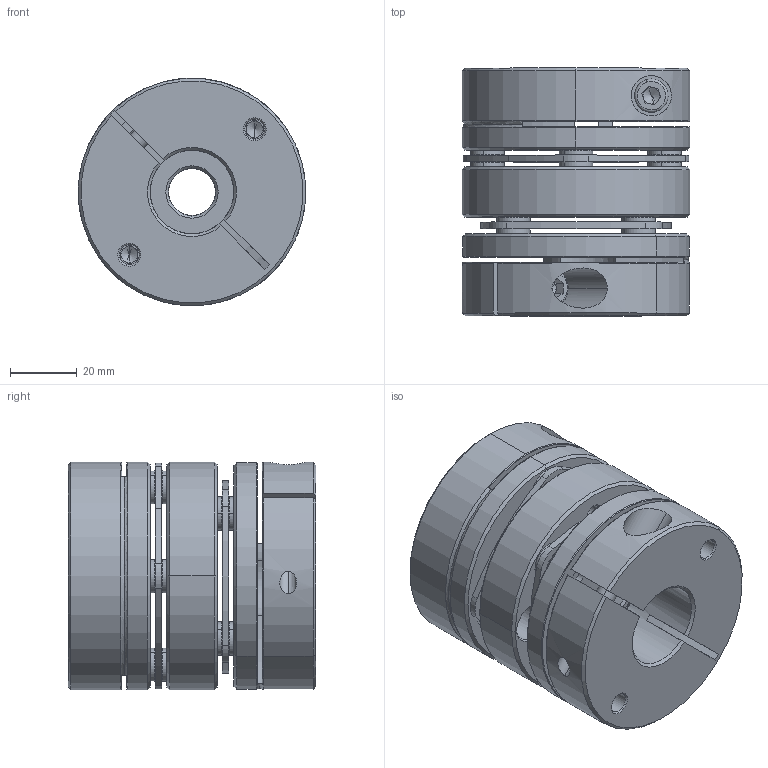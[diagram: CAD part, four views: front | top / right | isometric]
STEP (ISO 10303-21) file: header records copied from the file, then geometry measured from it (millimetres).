
FILE_DESCRIPTION (( 'STEP AP203' ), '1' );
FILE_NAME ('LD2-D68-14-25.STEP', '2021-10-26T08:13:23', ( '' ), ( '' ), 'SwSTEP 2.0', 'SolidWorks 2018', '' );
FILE_SCHEMA (( 'CONFIG_CONTROL_DESIGN' ));
Length unit declared in the file: millimetre
Products named in the file (2): LD2-D68-14-25; 錨璃102^LD2-D68
Assembly tree (1 placements, depth 2):
  LD2-D68-14-25
    錨璃102^LD2-D68
Bounding box: 68 x 74 x 68 mm (x, y, z)
Volume: 189358.3 mm3; surface area: 64612 mm2
Topology: 1 solids, 27 shells, 734 faces, 1712 edges, 1042 vertices
Faces by surface type: cylinder 256, cone 226, plane 222, torus 30
Entity records: 21554 total; most frequent: DIRECTION 4004, CARTESIAN_POINT 3937, ORIENTED_EDGE 3376, EDGE_CURVE 1688, AXIS2_PLACEMENT_3D 1625, VERTEX_POINT 1042, CIRCLE 887, EDGE_LOOP 870
